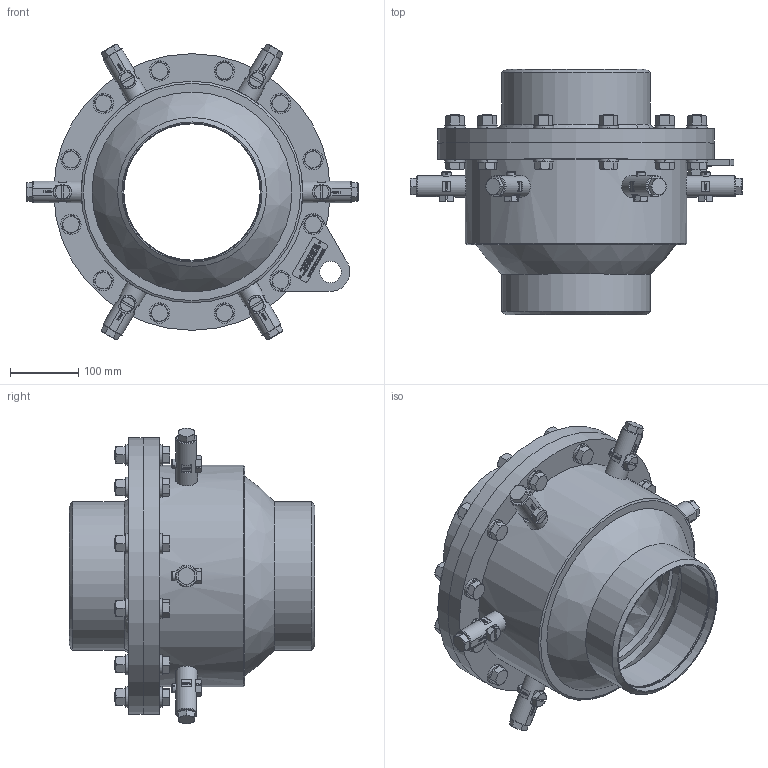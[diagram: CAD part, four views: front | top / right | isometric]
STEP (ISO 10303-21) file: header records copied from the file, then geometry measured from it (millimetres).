
FILE_DESCRIPTION(/* description */ (''),/* implementation_level */ '2;1');
FILE_NAME(/* name */ 'C:\001_Work\Designs\BALL JOINT\8 in Ball Joint Assem(Round PP)-1.stp',/* time_stamp */ '2015-02-23T11:06:26-05:00',/* author */ ('mleuck'),/* organization */ (''),/* preprocessor_version */ 'ST-DEVELOPER v15.2',/* originating_system */ 'Autodesk Inventor 2014',/* authorisation */ '');
FILE_SCHEMA (('AUTOMOTIVE_DESIGN { 1 0 10303 214 3 1 1 }'));
Products named in the file (18): (8 inch) Restraining Flange; (8 inch) Hard Packing; (8 inch) Soft Packing; (8 inch) Body-1; (8 inch) Restraining Ring; ANSI B 18.2.4.1 M - M16 x 2Style 1; ANSI B18.2.3.5M - M16 x 2 x 70; ASME B18.21.1 - 11_16(2); Plug-ROUND(long)-8-1-14; M14x1.5x35Long(FineThread)-shutoffvalve-(8-1-14); M16x2x30 Long-PackingBolt; IFI 512-S - 2.514; Plug Assem(NewRound)(long)(8-1-14); (8 inch) Inside Ball; 8 IN LIFTING LUG; ANSI B18.2.3.5M - M16 x 2 x 80; 4inch- decal; 8 in Ball Joint Assem(Round PP)-1
Bounding box: 487.84 x 361 x 434.48 mm (x, y, z)
Volume: 23545321 mm3; surface area: 4281877.9 mm2
Topology: 92 solids, 92 shells, 3455 faces, 8687 edges, 5679 vertices
Faces by surface type: plane 2042, bspline 719, cone 408, cylinder 245, torus 26, sphere 15
Full cylindrical faces by diameter (mm): 2.5 x6, 2.642 x2, 3 x2, 6 x12, 11.75 x6, 11.836 x6, 13.835 x12, 13.843 x6, 14 x6, 15 x6, 16 x18, 18 x26, 31.75 x1, 32 x12, 200.279 x1, 201.13 x6, 202.717 x7, 206.375 x6, 219.075 x7, 262.4 x1, 263.525 x1, 304.8 x12, 325.438 x1, 406.4 x2
Entity records: 53205 total; most frequent: CARTESIAN_POINT 15779, ORIENTED_EDGE 8080, DIRECTION 5632, EDGE_CURVE 4040, LINE 2784, VECTOR 2784, VERTEX_POINT 2735, EDGE_LOOP 1911
